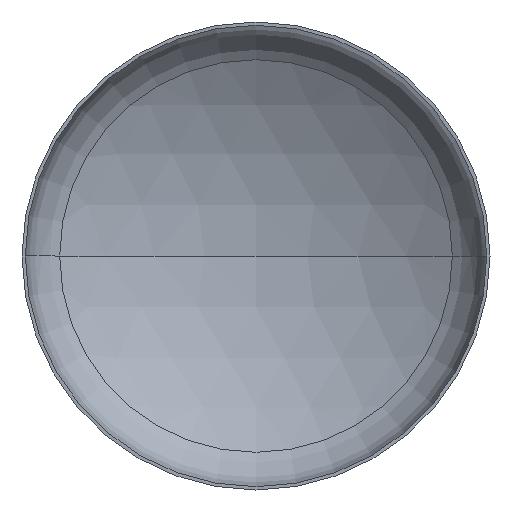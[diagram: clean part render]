
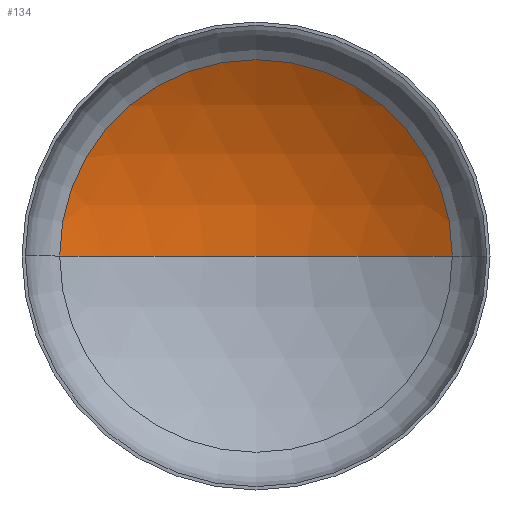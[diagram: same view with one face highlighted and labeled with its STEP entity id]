
A CAD part, front view. The second image highlights one B-rep face of the part: STEP entity #134.
In plain terms, the highlighted spherical face has radius 3600 mm.
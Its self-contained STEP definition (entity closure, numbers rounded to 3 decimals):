
#10 = VERTEX_POINT ( 'NONE', #276 ) ;
#23 = ORIENTED_EDGE ( 'NONE', *, *, #187, .T. ) ;
#70 = AXIS2_PLACEMENT_3D ( 'NONE', #169, #164, #163 ) ;
#73 = AXIS2_PLACEMENT_3D ( 'NONE', #244, #243, #242 ) ;
#78 = AXIS2_PLACEMENT_3D ( 'NONE', #198, #200, #211 ) ;
#83 = ORIENTED_EDGE ( 'NONE', *, *, #193, .F. ) ;
#86 = AXIS2_PLACEMENT_3D ( 'NONE', #279, #383, #203 ) ;
#90 = VERTEX_POINT ( 'NONE', #217 ) ;
#103 = CIRCLE ( 'NONE', #70, 3600. ) ;
#119 = CIRCLE ( 'NONE', #73, 3600. ) ;
#122 = VERTEX_POINT ( 'NONE', #355 ) ;
#134 = ADVANCED_FACE ( 'NONE', ( #210 ), #386, .F. ) ;
#163 = DIRECTION ( 'NONE',  ( 1., 0., 0. ) ) ;
#164 = DIRECTION ( 'NONE',  ( 0., 0., 1. ) ) ;
#169 = CARTESIAN_POINT ( 'NONE',  ( 0., -2373.762, 0. ) ) ;
#180 = EDGE_CURVE ( 'NONE', #10, #90, #324, .T. ) ;
#181 = ORIENTED_EDGE ( 'NONE', *, *, #180, .T. ) ;
#187 = EDGE_CURVE ( 'NONE', #122, #10, #119, .T. ) ;
#193 = EDGE_CURVE ( 'NONE', #122, #90, #103, .T. ) ;
#198 = CARTESIAN_POINT ( 'NONE',  ( 0., 691.829, 0. ) ) ;
#200 = DIRECTION ( 'NONE',  ( 0., -1., 0. ) ) ;
#203 = DIRECTION ( 'NONE',  ( -1., 0., 0. ) ) ;
#210 = FACE_OUTER_BOUND ( 'NONE', #232, .T. ) ;
#211 = DIRECTION ( 'NONE',  ( 1., 0., 0. ) ) ;
#217 = CARTESIAN_POINT ( 'NONE',  ( -1887.367, 691.829, 0. ) ) ;
#232 = EDGE_LOOP ( 'NONE', ( #83, #23, #181 ) ) ;
#242 = DIRECTION ( 'NONE',  ( -1., 0., 0. ) ) ;
#243 = DIRECTION ( 'NONE',  ( 0., 0., -1. ) ) ;
#244 = CARTESIAN_POINT ( 'NONE',  ( 0., -2373.762, 0. ) ) ;
#276 = CARTESIAN_POINT ( 'NONE',  ( 1887.367, 691.829, 0. ) ) ;
#279 = CARTESIAN_POINT ( 'NONE',  ( 0., -2373.762, 0. ) ) ;
#324 = CIRCLE ( 'NONE', #78, 1887.367 ) ;
#355 = CARTESIAN_POINT ( 'NONE',  ( 0., 1226.238, 0. ) ) ;
#383 = DIRECTION ( 'NONE',  ( 0., 0., -1. ) ) ;
#386 = SPHERICAL_SURFACE ( 'NONE', #86, 3600. ) ;
